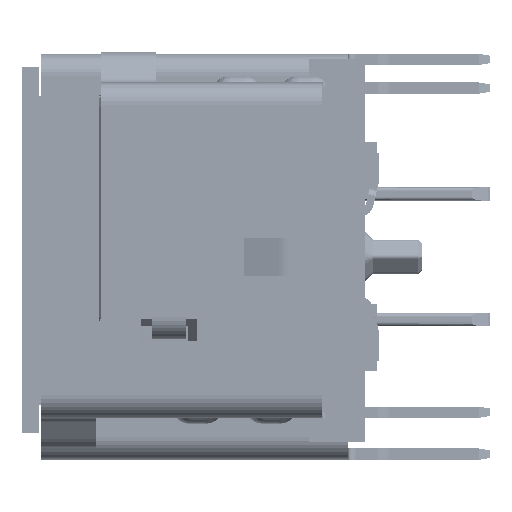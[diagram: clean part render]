
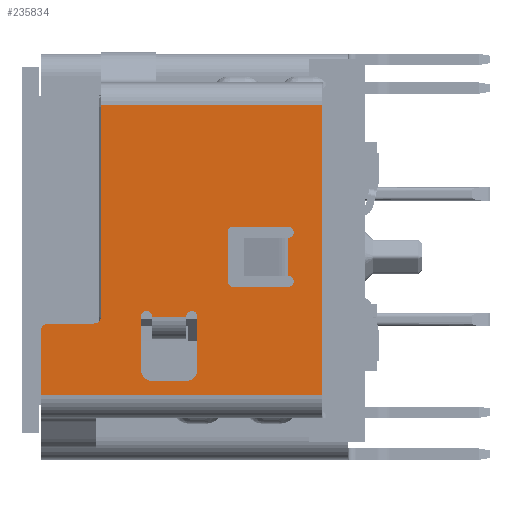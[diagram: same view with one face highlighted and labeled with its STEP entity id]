
A CAD part, left-side view. The second image highlights one B-rep face of the part: STEP entity #235834.
In plain terms, the highlighted planar face has unit normal (-1, 0, 0).
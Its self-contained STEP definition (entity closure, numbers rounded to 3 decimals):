
#33372=DIRECTION('',(0.,0.,-1.));
#33373=VECTOR('',#33372,5.59);
#33374=CARTESIAN_POINT('',(-26.55,7.3,4.02));
#33375=LINE('',#33374,#33373);
#33462=CARTESIAN_POINT('',(-26.55,8.7,-1.97));
#33463=DIRECTION('',(1.,0.,0.));
#33464=DIRECTION('',(0.,1.,0.));
#33465=AXIS2_PLACEMENT_3D('',#33462,#33463,#33464);
#33467=DIRECTION('',(0.,-1.,0.));
#33468=VECTOR('',#33467,1.2);
#33469=CARTESIAN_POINT('',(-26.55,8.7,-1.77));
#33470=LINE('',#33469,#33468);
#33471=CARTESIAN_POINT('',(-26.55,7.5,-1.57));
#33472=DIRECTION('',(-1.,0.,0.));
#33473=DIRECTION('',(0.,0.,-1.));
#33474=AXIS2_PLACEMENT_3D('',#33471,#33472,#33473);
#33476=DIRECTION('',(0.,-1.,0.));
#33477=VECTOR('',#33476,0.9);
#33478=CARTESIAN_POINT('',(-26.55,5.95,-3.29));
#33479=LINE('',#33478,#33477);
#33480=CARTESIAN_POINT('',(-26.55,5.05,-2.99));
#33481=DIRECTION('',(-1.,0.,0.));
#33482=DIRECTION('',(0.,0.,-1.));
#33483=AXIS2_PLACEMENT_3D('',#33480,#33481,#33482);
#33485=DIRECTION('',(0.,0.,1.));
#33486=VECTOR('',#33485,1.4);
#33487=CARTESIAN_POINT('',(-26.55,4.75,-2.99));
#33488=LINE('',#33487,#33486);
#33489=CARTESIAN_POINT('',(-26.55,4.9,-1.59));
#33490=DIRECTION('',(-1.,0.,0.));
#33491=DIRECTION('',(0.,-1.,0.));
#33492=AXIS2_PLACEMENT_3D('',#33489,#33490,#33491);
#33494=CARTESIAN_POINT('',(-26.55,6.1,-1.59));
#33495=DIRECTION('',(-1.,0.,0.));
#33496=DIRECTION('',(0.,-1.,0.));
#33497=AXIS2_PLACEMENT_3D('',#33494,#33495,#33496);
#33499=DIRECTION('',(0.,0.,-1.));
#33500=VECTOR('',#33499,1.4);
#33501=CARTESIAN_POINT('',(-26.55,6.25,-1.59));
#33502=LINE('',#33501,#33500);
#33503=CARTESIAN_POINT('',(-26.55,5.95,-2.99));
#33504=DIRECTION('',(-1.,0.,0.));
#33505=DIRECTION('',(0.,1.,0.));
#33506=AXIS2_PLACEMENT_3D('',#33503,#33504,#33505);
#33508=CARTESIAN_POINT('',(-26.55,2.35,0.65));
#33509=DIRECTION('',(-1.,0.,0.));
#33510=DIRECTION('',(0.,0.,-1.));
#33511=AXIS2_PLACEMENT_3D('',#33508,#33509,#33510);
#33513=DIRECTION('',(0.,1.,0.));
#33514=VECTOR('',#33513,1.45);
#33515=CARTESIAN_POINT('',(-26.55,2.35,0.8));
#33516=LINE('',#33515,#33514);
#33517=CARTESIAN_POINT('',(-26.55,3.8,0.65));
#33518=DIRECTION('',(-1.,0.,0.));
#33519=DIRECTION('',(0.,0.,1.));
#33520=AXIS2_PLACEMENT_3D('',#33517,#33518,#33519);
#33522=DIRECTION('',(0.,0.,-1.));
#33523=VECTOR('',#33522,1.3);
#33524=CARTESIAN_POINT('',(-26.55,3.95,0.65));
#33525=LINE('',#33524,#33523);
#33526=CARTESIAN_POINT('',(-26.55,3.8,-0.65));
#33527=DIRECTION('',(-1.,0.,0.));
#33528=DIRECTION('',(0.,1.,0.));
#33529=AXIS2_PLACEMENT_3D('',#33526,#33527,#33528);
#33531=DIRECTION('',(0.,-1.,0.));
#33532=VECTOR('',#33531,1.45);
#33533=CARTESIAN_POINT('',(-26.55,3.8,-0.8));
#33534=LINE('',#33533,#33532);
#33535=CARTESIAN_POINT('',(-26.55,2.35,-0.65));
#33536=DIRECTION('',(-1.,0.,0.));
#33537=DIRECTION('',(0.,0.,-1.));
#33538=AXIS2_PLACEMENT_3D('',#33535,#33536,#33537);
#33540=DIRECTION('',(0.,1.,0.));
#33541=VECTOR('',#33540,5.85);
#33542=CARTESIAN_POINT('',(-26.55,1.45,4.02));
#33543=LINE('',#33542,#33541);
#33553=DIRECTION('',(0.,0.,1.));
#33554=VECTOR('',#33553,7.69);
#33555=CARTESIAN_POINT('',(-26.55,1.45,-3.67));
#33556=LINE('',#33555,#33554);
#33580=DIRECTION('',(0.,-1.,0.));
#33581=VECTOR('',#33580,7.45);
#33582=CARTESIAN_POINT('',(-26.55,8.9,-3.67));
#33583=LINE('',#33582,#33581);
#33721=DIRECTION('',(0.,0.,-1.));
#33722=VECTOR('',#33721,1.7);
#33723=CARTESIAN_POINT('',(-26.55,8.9,-1.97));
#33724=LINE('',#33723,#33722);
#82737=DIRECTION('',(0.,-1.,0.));
#82738=VECTOR('',#82737,0.9);
#82739=CARTESIAN_POINT('',(-26.55,5.95,-1.59));
#82740=LINE('',#82739,#82738);
#125821=DIRECTION('',(0.,0.,-1.));
#125822=VECTOR('',#125821,1.);
#125823=CARTESIAN_POINT('',(-26.55,2.35,0.5));
#125824=LINE('',#125823,#125822);
#161139=CARTESIAN_POINT('',(-26.55,1.45,-3.67));
#161140=VERTEX_POINT('',#161139);
#161141=CARTESIAN_POINT('',(-26.55,1.45,4.02));
#161142=VERTEX_POINT('',#161141);
#161157=CARTESIAN_POINT('',(-26.55,8.9,-3.67));
#161158=VERTEX_POINT('',#161157);
#161211=CARTESIAN_POINT('',(-26.55,8.9,-1.97));
#161212=VERTEX_POINT('',#161211);
#179647=CARTESIAN_POINT('',(-26.55,7.3,4.02));
#179648=VERTEX_POINT('',#179647);
#179649=CARTESIAN_POINT('',(-26.55,7.3,-1.57));
#179650=VERTEX_POINT('',#179649);
#179651=CARTESIAN_POINT('',(-26.55,8.7,-1.77));
#179652=VERTEX_POINT('',#179651);
#179653=CARTESIAN_POINT('',(-26.55,7.5,-1.77));
#179654=VERTEX_POINT('',#179653);
#179655=CARTESIAN_POINT('',(-26.55,5.95,-3.29));
#179656=CARTESIAN_POINT('',(-26.55,5.05,-3.29));
#179657=VERTEX_POINT('',#179655);
#179658=VERTEX_POINT('',#179656);
#179659=CARTESIAN_POINT('',(-26.55,4.75,-2.99));
#179660=VERTEX_POINT('',#179659);
#179661=CARTESIAN_POINT('',(-26.55,4.75,-1.59));
#179662=VERTEX_POINT('',#179661);
#179663=CARTESIAN_POINT('',(-26.55,5.05,-1.59));
#179664=VERTEX_POINT('',#179663);
#179665=CARTESIAN_POINT('',(-26.55,5.95,-1.59));
#179666=VERTEX_POINT('',#179665);
#179667=CARTESIAN_POINT('',(-26.55,6.25,-1.59));
#179668=VERTEX_POINT('',#179667);
#179669=CARTESIAN_POINT('',(-26.55,6.25,-2.99));
#179670=VERTEX_POINT('',#179669);
#179671=CARTESIAN_POINT('',(-26.55,2.35,0.5));
#179672=CARTESIAN_POINT('',(-26.55,2.35,-0.5));
#179673=VERTEX_POINT('',#179671);
#179674=VERTEX_POINT('',#179672);
#179675=CARTESIAN_POINT('',(-26.55,2.35,0.8));
#179676=VERTEX_POINT('',#179675);
#179677=CARTESIAN_POINT('',(-26.55,3.8,0.8));
#179678=VERTEX_POINT('',#179677);
#179679=CARTESIAN_POINT('',(-26.55,3.95,0.65));
#179680=VERTEX_POINT('',#179679);
#179681=CARTESIAN_POINT('',(-26.55,3.95,-0.65));
#179682=VERTEX_POINT('',#179681);
#179683=CARTESIAN_POINT('',(-26.55,3.8,-0.8));
#179684=VERTEX_POINT('',#179683);
#179685=CARTESIAN_POINT('',(-26.55,2.35,-0.8));
#179686=VERTEX_POINT('',#179685);
#235777=CARTESIAN_POINT('',(-26.55,0.75,-3.67));
#235778=DIRECTION('',(-1.,0.,0.));
#235779=DIRECTION('',(0.,0.,1.));
#235780=AXIS2_PLACEMENT_3D('',#235777,#235778,#235779);
#235781=PLANE('',#235780);
#235782=ORIENTED_EDGE('',*,*,#235697,.F.);
#235784=ORIENTED_EDGE('',*,*,#235783,.F.);
#235786=ORIENTED_EDGE('',*,*,#235785,.F.);
#235788=ORIENTED_EDGE('',*,*,#235787,.F.);
#235790=ORIENTED_EDGE('',*,*,#235789,.F.);
#235792=ORIENTED_EDGE('',*,*,#235791,.T.);
#235794=ORIENTED_EDGE('',*,*,#235793,.T.);
#235795=ORIENTED_EDGE('',*,*,#235768,.T.);
#235796=EDGE_LOOP('',(#235782,#235784,#235786,#235788,#235790,#235792,#235794,
#235795));
#235797=FACE_OUTER_BOUND('',#235796,.F.);
#235799=ORIENTED_EDGE('',*,*,#235798,.T.);
#235801=ORIENTED_EDGE('',*,*,#235800,.T.);
#235803=ORIENTED_EDGE('',*,*,#235802,.T.);
#235805=ORIENTED_EDGE('',*,*,#235804,.T.);
#235807=ORIENTED_EDGE('',*,*,#235806,.F.);
#235809=ORIENTED_EDGE('',*,*,#235808,.T.);
#235811=ORIENTED_EDGE('',*,*,#235810,.T.);
#235813=ORIENTED_EDGE('',*,*,#235812,.T.);
#235814=EDGE_LOOP('',(#235799,#235801,#235803,#235805,#235807,#235809,#235811,
#235813));
#235815=FACE_BOUND('',#235814,.F.);
#235817=ORIENTED_EDGE('',*,*,#235816,.F.);
#235819=ORIENTED_EDGE('',*,*,#235818,.T.);
#235821=ORIENTED_EDGE('',*,*,#235820,.T.);
#235823=ORIENTED_EDGE('',*,*,#235822,.T.);
#235825=ORIENTED_EDGE('',*,*,#235824,.T.);
#235827=ORIENTED_EDGE('',*,*,#235826,.T.);
#235829=ORIENTED_EDGE('',*,*,#235828,.T.);
#235831=ORIENTED_EDGE('',*,*,#235830,.T.);
#235832=EDGE_LOOP('',(#235817,#235819,#235821,#235823,#235825,#235827,#235829,
#235831));
#235833=FACE_BOUND('',#235832,.F.);
#33466=CIRCLE('',#33465,0.2);
#33475=CIRCLE('',#33474,0.2);
#33484=CIRCLE('',#33483,0.3);
#33493=CIRCLE('',#33492,0.15);
#33498=CIRCLE('',#33497,0.15);
#33507=CIRCLE('',#33506,0.3);
#33512=CIRCLE('',#33511,0.15);
#33521=CIRCLE('',#33520,0.15);
#33530=CIRCLE('',#33529,0.15);
#33539=CIRCLE('',#33538,0.15);
#235697=EDGE_CURVE('',#179648,#179650,#33375,.T.);
#235768=EDGE_CURVE('',#179654,#179650,#33475,.T.);
#235783=EDGE_CURVE('',#161142,#179648,#33543,.T.);
#235785=EDGE_CURVE('',#161140,#161142,#33556,.T.);
#235787=EDGE_CURVE('',#161158,#161140,#33583,.T.);
#235789=EDGE_CURVE('',#161212,#161158,#33724,.T.);
#235791=EDGE_CURVE('',#161212,#179652,#33466,.T.);
#235793=EDGE_CURVE('',#179652,#179654,#33470,.T.);
#235798=EDGE_CURVE('',#179657,#179658,#33479,.T.);
#235800=EDGE_CURVE('',#179658,#179660,#33484,.T.);
#235802=EDGE_CURVE('',#179660,#179662,#33488,.T.);
#235804=EDGE_CURVE('',#179662,#179664,#33493,.T.);
#235806=EDGE_CURVE('',#179666,#179664,#82740,.T.);
#235808=EDGE_CURVE('',#179666,#179668,#33498,.T.);
#235810=EDGE_CURVE('',#179668,#179670,#33502,.T.);
#235812=EDGE_CURVE('',#179670,#179657,#33507,.T.);
#235816=EDGE_CURVE('',#179673,#179674,#125824,.T.);
#235818=EDGE_CURVE('',#179673,#179676,#33512,.T.);
#235820=EDGE_CURVE('',#179676,#179678,#33516,.T.);
#235822=EDGE_CURVE('',#179678,#179680,#33521,.T.);
#235824=EDGE_CURVE('',#179680,#179682,#33525,.T.);
#235826=EDGE_CURVE('',#179682,#179684,#33530,.T.);
#235828=EDGE_CURVE('',#179684,#179686,#33534,.T.);
#235830=EDGE_CURVE('',#179686,#179674,#33539,.T.);
#235834=ADVANCED_FACE('',(#235797,#235815,#235833),#235781,.T.);
